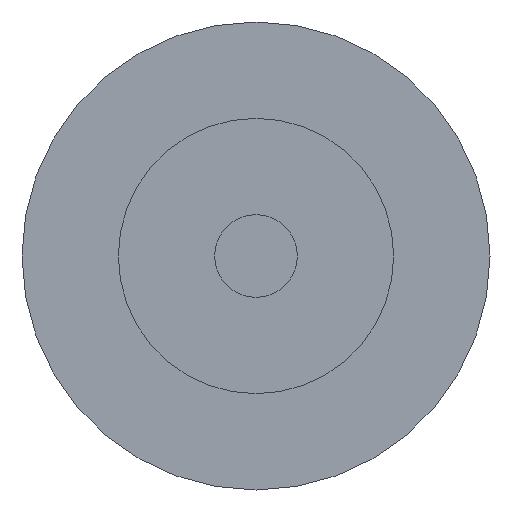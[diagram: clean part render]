
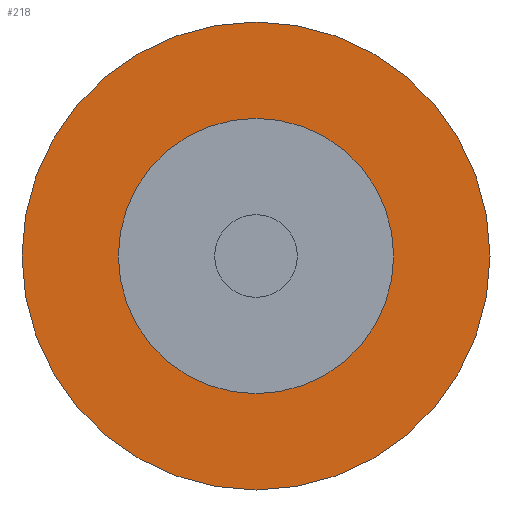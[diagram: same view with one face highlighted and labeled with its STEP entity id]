
A CAD part, front view. The second image highlights one B-rep face of the part: STEP entity #218.
In plain terms, the highlighted planar face has unit normal (0, -1, 0).
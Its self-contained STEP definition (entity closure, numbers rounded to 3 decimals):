
#13=FACE_BOUND('',#79,.T.);
#60=FACE_OUTER_BOUND('',#78,.T.);
#78=EDGE_LOOP('',(#174));
#79=EDGE_LOOP('',(#175));
#102=CIRCLE('',#264,4.25);
#103=CIRCLE('',#265,2.5);
#118=VERTEX_POINT('',#393);
#119=VERTEX_POINT('',#395);
#139=EDGE_CURVE('',#118,#118,#102,.T.);
#140=EDGE_CURVE('',#119,#119,#103,.T.);
#174=ORIENTED_EDGE('',*,*,#139,.F.);
#175=ORIENTED_EDGE('',*,*,#140,.T.);
#204=PLANE('',#263);
#218=ADVANCED_FACE('',(#60,#13),#204,.F.);
#263=AXIS2_PLACEMENT_3D('',#392,#323,#324);
#264=AXIS2_PLACEMENT_3D('',#394,#325,#326);
#265=AXIS2_PLACEMENT_3D('',#396,#327,#328);
#323=DIRECTION('center_axis',(0.,1.,0.));
#324=DIRECTION('ref_axis',(-1.,0.,0.));
#325=DIRECTION('center_axis',(0.,1.,0.));
#326=DIRECTION('ref_axis',(-1.,0.,0.));
#327=DIRECTION('center_axis',(0.,1.,0.));
#328=DIRECTION('ref_axis',(1.,0.,0.));
#392=CARTESIAN_POINT('Origin',(0.,15.,0.));
#393=CARTESIAN_POINT('',(4.25,15.,0.));
#394=CARTESIAN_POINT('Origin',(0.,15.,0.));
#395=CARTESIAN_POINT('',(-2.5,15.,0.));
#396=CARTESIAN_POINT('Origin',(0.,15.,0.));
